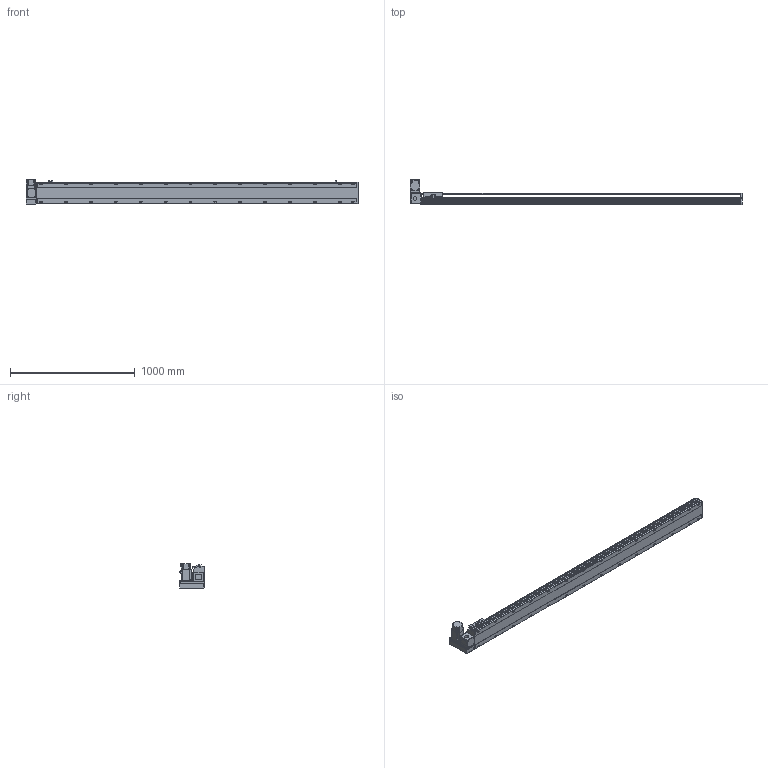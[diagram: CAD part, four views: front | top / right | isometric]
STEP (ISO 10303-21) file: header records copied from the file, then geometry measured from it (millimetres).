
FILE_DESCRIPTION(/* description */ ('STEP AP214'),/* implementation_level */ '2;1');
FILE_NAME(/* name */ 'PBS170-P40-S2300-LU-T75-C1-N(0)',/* time_stamp */ '2022-06-07T10:17:08+02:00',/* author */ ('License CC BY-ND 4.0'),/* organization */ ('CADENAS'),/* preprocessor_version */ 'ST-DEVELOPER v18.102',/* originating_system */ 'PARTsolutions',/* authorisation */ ' ');
FILE_SCHEMA (('AUTOMOTIVE_DESIGN {1 0 10303 214 3 1 1}'));
Length unit declared in the file: millimetre
Products named in the file (7): PBS170-P40-S2300-LU-T75-C1-N(0); PBS170_sensor; PBS170_plant; PBS170_sliser; T75-p1; PBS170T-LU_motors; PBS170-S2300()_body
Assembly tree (8 placements, depth 2):
  PBS170-P40-S2300-LU-T75-C1-N(0)
    PBS170_sensor  x3
    PBS170_plant
    PBS170_sliser
    T75-p1
    PBS170T-LU_motors
    PBS170-S2300()_body
Bounding box: 2663 x 206 x 197.3 mm (x, y, z)
Volume: 20252232.2 mm3; surface area: 2558160 mm2
Topology: 8 solids, 8 shells, 1178 faces, 3115 edges, 2030 vertices
Faces by surface type: plane 723, cylinder 387, cone 58, sphere 8, torus 2
Full cylindrical faces by diameter (mm): 3.242 x4, 4 x2, 4.4 x4, 4.5 x6, 4.917 x4, 6 x9, 6.647 x36, 7 x2, 7.5 x4, 8 x8, 8.5 x28, 10 x4, 10.5 x28, 11 x2, 30 x2, 40 x1, 70 x1
Entity records: 33866 total; most frequent: CARTESIAN_POINT 6385, DIRECTION 5720, ORIENTED_EDGE 5388, EDGE_CURVE 2694, AXIS2_PLACEMENT_3D 2017, VERTEX_POINT 1874, LINE 1686, VECTOR 1686
